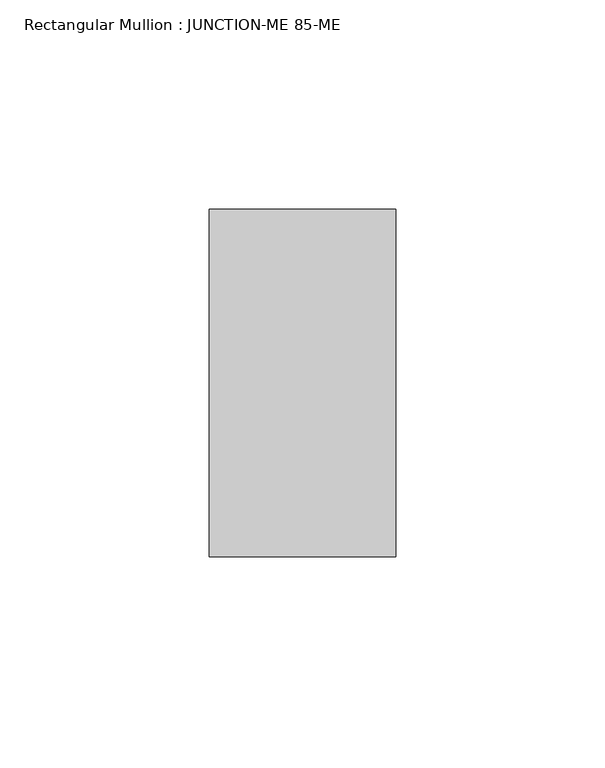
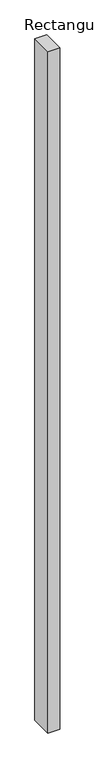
"""IFC4 building model written with IfcOpenShell, lengths in millimetres: member geometry, Rectangular Mullion : JUNCTION-ME 85-ME."""

from ifc_helpers import new_model, si_unit, frame, origin, place, context, project, spatial, polyline, outline, extrude, source, transform, mapped, element, save


def rectangular_mullion_junction_me_85_me_d2a1f88f(model_context):
    return source(origin(), model_context, "Body", "SweptSolid", [
        extrude(outline(polyline([(-44.5, -41.5), (-44.5, 41.5), (0.0, 41.5), (0.0, -41.5), (-44.5, -41.5)])), frame((0.0, 0.0, -2685.0), z_axis=(0.0, 0.0, 1.0), x_axis=(1.0, 0.0, 0.0)), (0.0, 0.0, 1.0), 2685.0),
    ])


if __name__ == "__main__":
    model = new_model("IFC4")
    model_context = context("Model", 3, world=origin())
    ifc_project = project(units=[si_unit("LENGTHUNIT", "METRE", prefix="MILLI")], contexts=[model_context])
    site = spatial("IfcSite", under=ifc_project)
    building = spatial("IfcBuilding", under=site)
    placement = place(None, origin())
    rectangular_mullion_junction_me_85_me_shape = rectangular_mullion_junction_me_85_me_d2a1f88f(model_context)
    element("IfcMember", 1, ObjectType="Rectangular Mullion : JUNCTION-ME 85-ME", at=placement, inside=building, context=model_context, shape_type="MappedRepresentation", body=[
        mapped(rectangular_mullion_junction_me_85_me_shape, transform((0.0, 0.0, 0.0), x_axis=(1.0, 0.0, 0.0), y_axis=(0.0, 1.0, 0.0), z_axis=(0.0, 0.0, 1.0))),
    ])
    save(model, "model.ifc")
